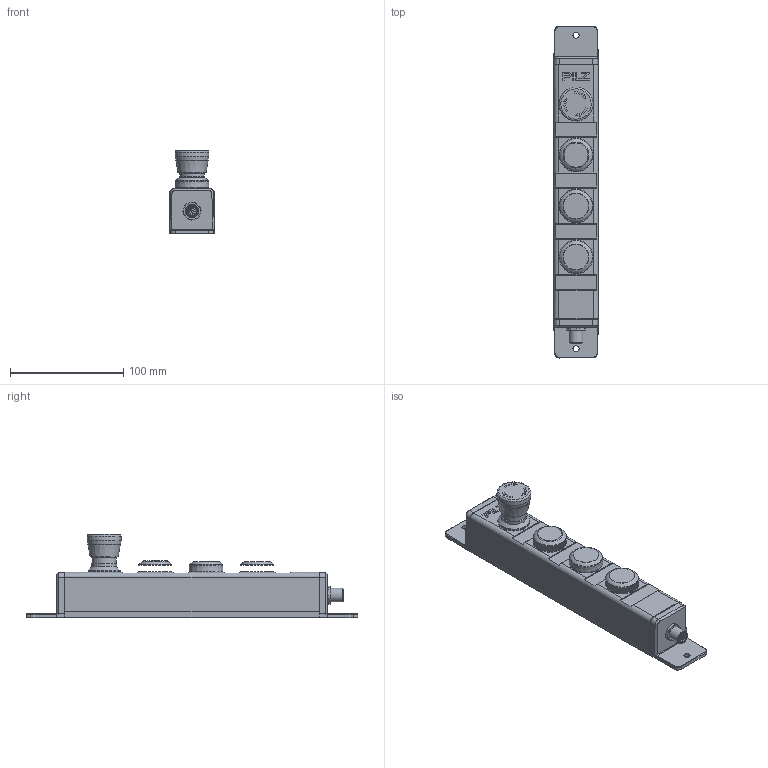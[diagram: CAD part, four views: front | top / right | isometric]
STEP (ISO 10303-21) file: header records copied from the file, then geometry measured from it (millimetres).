
FILE_DESCRIPTION(/* description */ (''),/* implementation_level */ '2;1');
FILE_NAME(/* name */ 'C:\_Vault\Workspace\Projektordner\03-Sensoren\02-STS\09-PITgatebox\03-Kundendaten\2030205_B_PIT_gb_LLME.stp',/* time_stamp */ '2021-04-16T09:49:24+02:00',/* author */ ('ES-PE'),/* organization */ (''),/* preprocessor_version */ 'ST-DEVELOPER v18.1',/* originating_system */ 'Autodesk Inventor 2020',/* authorisation */ '');
FILE_SCHEMA (('AUTOMOTIVE_DESIGN { 1 0 10303 214 3 1 1 }'));
Length unit declared in the file: millimetre
Products named in the file (4): 2030205; Kundendaten_PIT_gb_Gehäuse; H306916; H306915
Assembly tree (3 placements, depth 2):
  2030205
    Kundendaten_PIT_gb_Gehäuse
    H306916
    H306915
Bounding box: 40 x 293 x 73.68 mm (x, y, z)
Volume: 420691.2 mm3; surface area: 60841.9 mm2
Topology: 6 solids, 6 shells, 576 faces, 1441 edges, 931 vertices
Faces by surface type: cylinder 189, plane 184, cone 129, torus 35, bspline 23, sphere 16
Full cylindrical faces by diameter (mm): 0.6 x12, 1.1 x12, 5.4 x2, 8.3 x1, 9.5 x2, 9.6 x1, 10 x2, 10.6 x1, 11 x1, 12 x1, 12.1 x1, 14 x1, 20 x2, 21.5 x1, 22.2 x1, 22.55 x1, 28 x1, 28.2 x1, 28.6 x3, 29.2 x3
Entity records: 19215 total; most frequent: CARTESIAN_POINT 5299, DIRECTION 2976, ORIENTED_EDGE 2858, EDGE_CURVE 1429, AXIS2_PLACEMENT_3D 1229, VERTEX_POINT 931, CIRCLE 657, EDGE_LOOP 648
